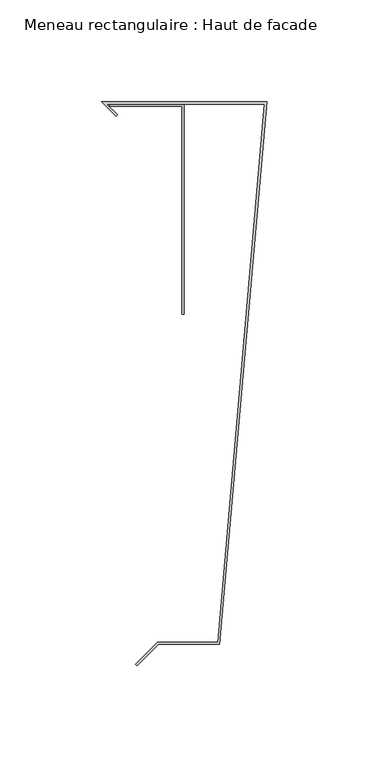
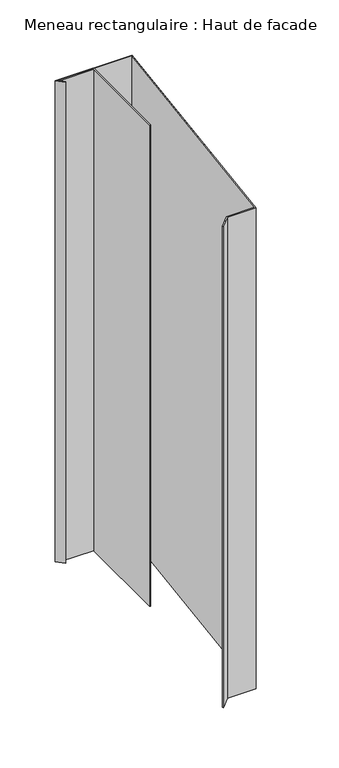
"""IFC4 building model written with IfcOpenShell, lengths in millimetres: member geometry, Meneau rectangulaire : Haut de facade."""

from ifc_helpers import new_model, si_unit, frame, origin, place, context, project, spatial, polyline, outline, extrude, source, transform, mapped, element, save


def meneau_rectangulaire_haut_de_facade_281e57f9(model_context):
    return source(origin(), model_context, "Body", "SweptSolid", [
        extrude(outline(polyline([(-24.0647895, -160.703755), (-1.0913085, 103.2), (-78.5857864, 103.2), (-73.2218254, 97.836039), (-73.9289322, 97.1289322), (-81.0, 104.2), (0.0, 104.2), (-23.1484584, -161.703755), (-53.1484584, -161.703755), (-63.7550601, -172.3103567), (-64.4621669, -171.6032499), (-53.5626719, -160.703755), (-24.0647895, -160.703755)])), frame((0.0, 0.0, -534.0), z_axis=(0.0, 0.0, 1.0), x_axis=(1.0, 0.0, 0.0)), (0.0, 0.0, 1.0), 534.0),
        extrude(outline(polyline([(-40.5477541, 102.9846816), (-40.5477541, 0.0384227), (-41.5477541, 0.0384227), (-41.5477541, 101.9846816), (-77.0752814, 101.9846816), (-77.0752814, 102.9846816), (-40.5477541, 102.9846816)])), frame((0.0, 0.0, -534.0), z_axis=(0.0, 0.0, 1.0), x_axis=(1.0, 0.0, 0.0)), (0.0, 0.0, 1.0), 534.0),
    ])


if __name__ == "__main__":
    model = new_model("IFC4")
    model_context = context("Model", 3, world=origin())
    ifc_project = project(units=[si_unit("LENGTHUNIT", "METRE", prefix="MILLI")], contexts=[model_context])
    site = spatial("IfcSite", under=ifc_project)
    building = spatial("IfcBuilding", under=site)
    placement = place(None, origin())
    meneau_rectangulaire_haut_de_facade_shape = meneau_rectangulaire_haut_de_facade_281e57f9(model_context)
    element("IfcMember", 1, ObjectType="Meneau rectangulaire : Haut de facade", at=placement, inside=building, context=model_context, shape_type="MappedRepresentation", body=[
        mapped(meneau_rectangulaire_haut_de_facade_shape, transform((0.0, 0.0, 0.0), x_axis=(1.0, 0.0, 0.0), y_axis=(0.0, 1.0, 0.0), z_axis=(0.0, 0.0, 1.0))),
    ])
    save(model, "model.ifc")
